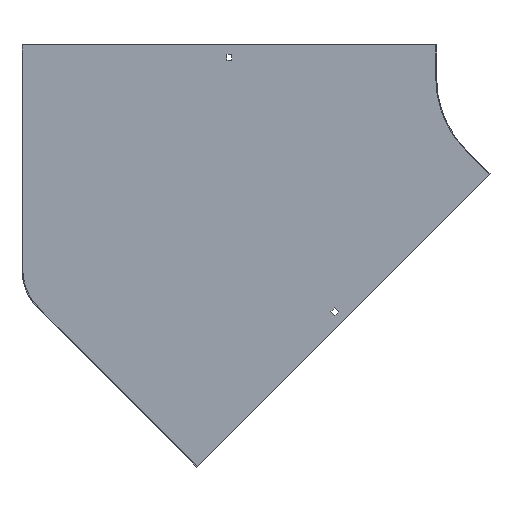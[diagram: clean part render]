
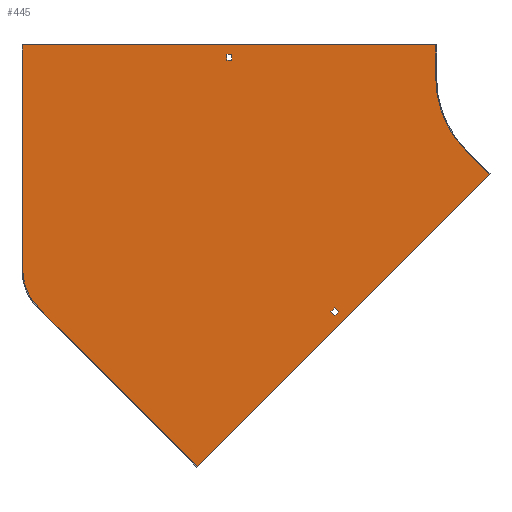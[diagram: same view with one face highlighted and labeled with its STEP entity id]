
A CAD part, front view. The second image highlights one B-rep face of the part: STEP entity #445.
In plain terms, the highlighted planar face has unit normal (0, -1, 0).
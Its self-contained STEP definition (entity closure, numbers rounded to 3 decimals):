
#18 = DIRECTION ( 'NONE',  ( 0., 0., -1. ) ) ;
#31 = CARTESIAN_POINT ( 'NONE',  ( -125., -1., 0. ) ) ;
#38 = ORIENTED_EDGE ( 'NONE', *, *, #264, .F. ) ;
#39 = CARTESIAN_POINT ( 'NONE',  ( -378., -1., 21.5 ) ) ;
#62 = CARTESIAN_POINT ( 'NONE',  ( -88.388, -1., -88.388 ) ) ;
#66 = DIRECTION ( 'NONE',  ( 0., 0., 1. ) ) ;
#77 = VECTOR ( 'NONE', #66, 1000. ) ;
#78 = VECTOR ( 'NONE', #483, 1000. ) ;
#84 = LINE ( 'NONE', #352, #789 ) ;
#90 = DIRECTION ( 'NONE',  ( 0., 0., -1. ) ) ;
#99 = CARTESIAN_POINT ( 'NONE',  ( 15.203, -1., -15.203 ) ) ;
#104 = CARTESIAN_POINT ( 'NONE',  ( -125., -1., 40. ) ) ;
#108 = CARTESIAN_POINT ( 'NONE',  ( 20.153, -1., -20.153 ) ) ;
#110 = ORIENTED_EDGE ( 'NONE', *, *, #190, .T. ) ;
#118 = CARTESIAN_POINT ( 'NONE',  ( -372., -1., 0. ) ) ;
#138 = CARTESIAN_POINT ( 'NONE',  ( 0., -1., 0. ) ) ;
#140 = EDGE_CURVE ( 'NONE', #713, #308, #331, .T. ) ;
#156 = LINE ( 'NONE', #541, #527 ) ;
#157 = ORIENTED_EDGE ( 'NONE', *, *, #210, .F. ) ;
#175 = VECTOR ( 'NONE', #731, 1000. ) ;
#180 = LINE ( 'NONE', #118, #345 ) ;
#183 = ORIENTED_EDGE ( 'NONE', *, *, #810, .F. ) ;
#189 = ORIENTED_EDGE ( 'NONE', *, *, #801, .T. ) ;
#190 = EDGE_CURVE ( 'NONE', #308, #691, #156, .T. ) ;
#191 = CARTESIAN_POINT ( 'NONE',  ( -247.841, -1., -278.247 ) ) ;
#204 = ORIENTED_EDGE ( 'NONE', *, *, #493, .F. ) ;
#205 = CARTESIAN_POINT ( 'NONE',  ( -606.694, -1., -277.189 ) ) ;
#209 = LINE ( 'NONE', #99, #743 ) ;
#210 = EDGE_CURVE ( 'NONE', #525, #471, #209, .T. ) ;
#211 = LINE ( 'NONE', #818, #78 ) ;
#220 = VERTEX_POINT ( 'NONE', #620 ) ;
#241 = VERTEX_POINT ( 'NONE', #31 ) ;
#248 = LINE ( 'NONE', #695, #515 ) ;
#251 = DIRECTION ( 'NONE',  ( 0.707, 0., 0.707 ) ) ;
#255 = ORIENTED_EDGE ( 'NONE', *, *, #362, .F. ) ;
#259 = EDGE_LOOP ( 'NONE', ( #663, #630, #204, #157 ) ) ;
#264 = EDGE_CURVE ( 'NONE', #845, #619, #84, .T. ) ;
#265 = EDGE_CURVE ( 'NONE', #299, #666, #543, .T. ) ;
#267 = FACE_OUTER_BOUND ( 'NONE', #491, .T. ) ;
#278 = EDGE_CURVE ( 'NONE', #666, #525, #697, .T. ) ;
#299 = VERTEX_POINT ( 'NONE', #840 ) ;
#304 = DIRECTION ( 'NONE',  ( -1., 0., 0. ) ) ;
#308 = VERTEX_POINT ( 'NONE', #774 ) ;
#326 = CARTESIAN_POINT ( 'NONE',  ( -267.286, -1., -267.286 ) ) ;
#331 = LINE ( 'NONE', #660, #77 ) ;
#332 = FACE_BOUND ( 'NONE', #259, .T. ) ;
#336 = FACE_BOUND ( 'NONE', #859, .T. ) ;
#338 = EDGE_CURVE ( 'NONE', #853, #241, #519, .T. ) ;
#339 = DIRECTION ( 'NONE',  ( 0., 0., -1. ) ) ;
#342 = CARTESIAN_POINT ( 'NONE',  ( -625., -1., 40. ) ) ;
#343 = ORIENTED_EDGE ( 'NONE', *, *, #575, .F. ) ;
#345 = VECTOR ( 'NONE', #383, 1000. ) ;
#352 = CARTESIAN_POINT ( 'NONE',  ( -413.657, -1., -470.226 ) ) ;
#362 = EDGE_CURVE ( 'NONE', #682, #853, #578, .T. ) ;
#365 = DIRECTION ( 'NONE',  ( -0.707, 0., -0.707 ) ) ;
#379 = DIRECTION ( 'NONE',  ( 0., 0., -1. ) ) ;
#383 = DIRECTION ( 'NONE',  ( 0., 0., -1. ) ) ;
#387 = LINE ( 'NONE', #651, #442 ) ;
#394 = EDGE_CURVE ( 'NONE', #691, #441, #180, .T. ) ;
#403 = EDGE_CURVE ( 'NONE', #501, #220, #387, .T. ) ;
#434 = DIRECTION ( 'NONE',  ( 0.707, 0., -0.707 ) ) ;
#435 = ORIENTED_EDGE ( 'NONE', *, *, #612, .F. ) ;
#441 = VERTEX_POINT ( 'NONE', #665 ) ;
#442 = VECTOR ( 'NONE', #434, 1000. ) ;
#445 = ADVANCED_FACE ( 'NONE', ( #332, #267, #336 ), #791, .T. ) ;
#447 = CARTESIAN_POINT ( 'NONE',  ( -263.044, -1., -263.044 ) ) ;
#449 = DIRECTION ( 'NONE',  ( -0.707, 0., -0.707 ) ) ;
#452 = CARTESIAN_POINT ( 'NONE',  ( -626., -1., 40. ) ) ;
#469 = LINE ( 'NONE', #326, #175 ) ;
#471 = VERTEX_POINT ( 'NONE', #534 ) ;
#481 = AXIS2_PLACEMENT_3D ( 'NONE', #812, #746, #18 ) ;
#483 = DIRECTION ( 'NONE',  ( 0., 0., 1. ) ) ;
#491 = EDGE_LOOP ( 'NONE', ( #255, #435, #601, #38, #183, #803, #343, #822 ) ) ;
#493 = EDGE_CURVE ( 'NONE', #471, #299, #469, .T. ) ;
#501 = VERTEX_POINT ( 'NONE', #62 ) ;
#510 = AXIS2_PLACEMENT_3D ( 'NONE', #138, #857, #339 ) ;
#511 = LINE ( 'NONE', #778, #815 ) ;
#515 = VECTOR ( 'NONE', #304, 1000. ) ;
#519 = LINE ( 'NONE', #712, #596 ) ;
#525 = VERTEX_POINT ( 'NONE', #191 ) ;
#527 = VECTOR ( 'NONE', #692, 1000. ) ;
#534 = CARTESIAN_POINT ( 'NONE',  ( -252.084, -1., -282.489 ) ) ;
#541 = CARTESIAN_POINT ( 'NONE',  ( 0., -1., 28.5 ) ) ;
#543 = LINE ( 'NONE', #108, #606 ) ;
#559 = ORIENTED_EDGE ( 'NONE', *, *, #394, .T. ) ;
#564 = CARTESIAN_POINT ( 'NONE',  ( -372., -1., 28.5 ) ) ;
#568 = ORIENTED_EDGE ( 'NONE', *, *, #140, .T. ) ;
#575 = EDGE_CURVE ( 'NONE', #241, #501, #848, .T. ) ;
#578 = LINE ( 'NONE', #452, #718 ) ;
#596 = VECTOR ( 'NONE', #379, 1000. ) ;
#601 = ORIENTED_EDGE ( 'NONE', *, *, #636, .F. ) ;
#606 = VECTOR ( 'NONE', #251, 1000. ) ;
#610 = CARTESIAN_POINT ( 'NONE',  ( 0., -1., 0. ) ) ;
#611 = DIRECTION ( 'NONE',  ( -0.707, 0., 0.707 ) ) ;
#612 = EDGE_CURVE ( 'NONE', #834, #682, #211, .T. ) ;
#619 = VERTEX_POINT ( 'NONE', #205 ) ;
#620 = CARTESIAN_POINT ( 'NONE',  ( -60.104, -1., -116.673 ) ) ;
#630 = ORIENTED_EDGE ( 'NONE', *, *, #265, .F. ) ;
#636 = EDGE_CURVE ( 'NONE', #619, #834, #732, .T. ) ;
#648 = VECTOR ( 'NONE', #852, 1000. ) ;
#651 = CARTESIAN_POINT ( 'NONE',  ( -88.388, -1., -88.388 ) ) ;
#660 = CARTESIAN_POINT ( 'NONE',  ( -378., -1., 0. ) ) ;
#663 = ORIENTED_EDGE ( 'NONE', *, *, #278, .F. ) ;
#665 = CARTESIAN_POINT ( 'NONE',  ( -372., -1., 21.5 ) ) ;
#666 = VERTEX_POINT ( 'NONE', #739 ) ;
#682 = VERTEX_POINT ( 'NONE', #342 ) ;
#691 = VERTEX_POINT ( 'NONE', #564 ) ;
#692 = DIRECTION ( 'NONE',  ( 1., 0., 0. ) ) ;
#695 = CARTESIAN_POINT ( 'NONE',  ( 0., -1., 21.5 ) ) ;
#697 = LINE ( 'NONE', #447, #648 ) ;
#712 = CARTESIAN_POINT ( 'NONE',  ( -125., -1., 40. ) ) ;
#713 = VERTEX_POINT ( 'NONE', #39 ) ;
#718 = VECTOR ( 'NONE', #846, 1000. ) ;
#731 = DIRECTION ( 'NONE',  ( 0.707, 0., -0.707 ) ) ;
#732 = CIRCLE ( 'NONE', #481, 62.5 ) ;
#739 = CARTESIAN_POINT ( 'NONE',  ( -242.891, -1., -283.196 ) ) ;
#743 = VECTOR ( 'NONE', #365, 1000. ) ;
#746 = DIRECTION ( 'NONE',  ( 0., 1., 0. ) ) ;
#749 = DIRECTION ( 'NONE',  ( 0., -1., 0. ) ) ;
#769 = CARTESIAN_POINT ( 'NONE',  ( -625., -1., -232.995 ) ) ;
#774 = CARTESIAN_POINT ( 'NONE',  ( -378., -1., 28.5 ) ) ;
#776 = AXIS2_PLACEMENT_3D ( 'NONE', #610, #749, #90 ) ;
#778 = CARTESIAN_POINT ( 'NONE',  ( -59.397, -1., -115.966 ) ) ;
#789 = VECTOR ( 'NONE', #611, 1000. ) ;
#791 = PLANE ( 'NONE',  #510 ) ;
#801 = EDGE_CURVE ( 'NONE', #441, #713, #248, .T. ) ;
#803 = ORIENTED_EDGE ( 'NONE', *, *, #403, .F. ) ;
#810 = EDGE_CURVE ( 'NONE', #220, #845, #511, .T. ) ;
#812 = CARTESIAN_POINT ( 'NONE',  ( -562.5, -1., -232.995 ) ) ;
#815 = VECTOR ( 'NONE', #449, 1000. ) ;
#818 = CARTESIAN_POINT ( 'NONE',  ( -625., -1., -232.995 ) ) ;
#822 = ORIENTED_EDGE ( 'NONE', *, *, #338, .F. ) ;
#834 = VERTEX_POINT ( 'NONE', #769 ) ;
#836 = CARTESIAN_POINT ( 'NONE',  ( -413.657, -1., -470.226 ) ) ;
#840 = CARTESIAN_POINT ( 'NONE',  ( -247.134, -1., -287.439 ) ) ;
#845 = VERTEX_POINT ( 'NONE', #836 ) ;
#846 = DIRECTION ( 'NONE',  ( 1., 0., 0. ) ) ;
#848 = CIRCLE ( 'NONE', #776, 125. ) ;
#852 = DIRECTION ( 'NONE',  ( -0.707, 0., 0.707 ) ) ;
#853 = VERTEX_POINT ( 'NONE', #104 ) ;
#857 = DIRECTION ( 'NONE',  ( 0., -1., 0. ) ) ;
#859 = EDGE_LOOP ( 'NONE', ( #110, #559, #189, #568 ) ) ;
